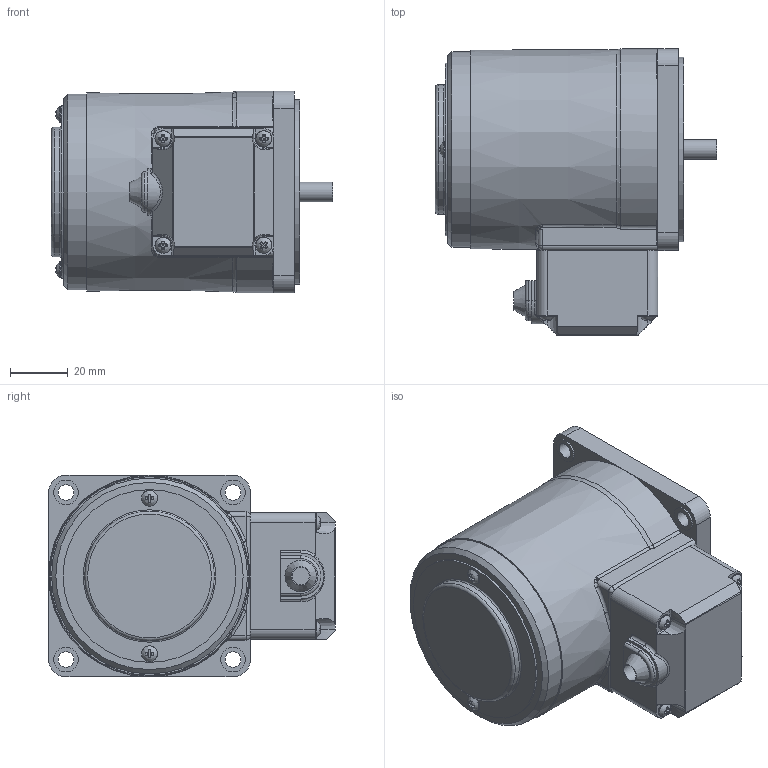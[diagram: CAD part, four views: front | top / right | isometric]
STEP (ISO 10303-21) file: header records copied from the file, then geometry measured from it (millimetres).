
FILE_DESCRIPTION((''),'2;1');
FILE_NAME('D:\STP파일\15W MOTOR\T BOX TYPE\S7R15G-T.stp','2013-05-20T16:30:35',('leebh'),(''),'Autodesk Inventor 2011','Autodesk Inventor 2011','');
FILE_SCHEMA(('AUTOMOTIVE_DESIGN { 1 0 10303 214 1 1 1 1 }'));
Length unit declared in the file: millimetre
Products named in the file (1): 부품2
Bounding box: 97.7 x 99.5 x 70 mm (x, y, z)
Volume: 346524.3 mm3; surface area: 47936 mm2
Topology: 1 solids, 9 shells, 363 faces, 915 edges, 585 vertices
Faces by surface type: plane 182, cylinder 105, bspline 37, torus 26, cone 11, sphere 2
Full cylindrical faces by diameter (mm): 3 x6, 3.5 x6, 3.8 x4, 5.5 x4, 5.6 x6, 6.7 x1, 8 x1, 8.5 x4, 28 x1, 43 x1, 45 x1, 60 x1, 64 x1, 68 x1
Entity records: 11942 total; most frequent: CARTESIAN_POINT 3425, ORIENTED_EDGE 1660, DIRECTION 1633, EDGE_CURVE 830, AXIS2_PLACEMENT_3D 619, VERTEX_POINT 571, EDGE_LOOP 475, VECTOR 395
